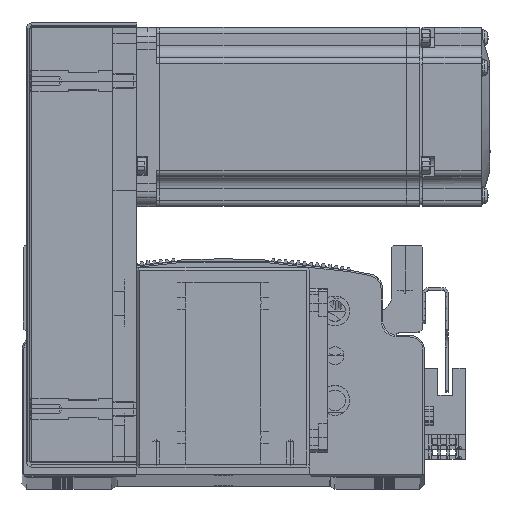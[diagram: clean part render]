
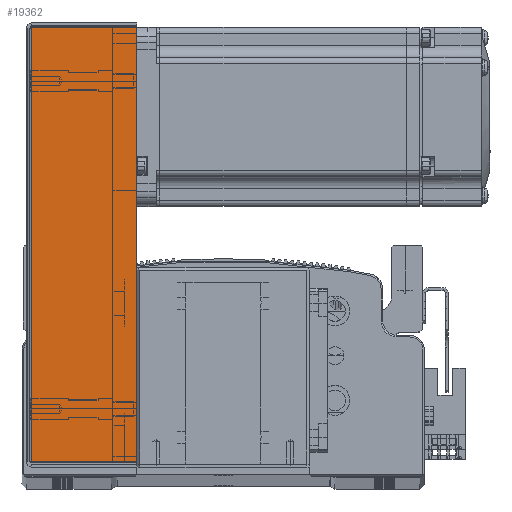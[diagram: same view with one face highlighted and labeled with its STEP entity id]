
A CAD part, top view. The second image highlights one B-rep face of the part: STEP entity #19362.
In plain terms, the highlighted planar face has unit normal (0, 0, 1).
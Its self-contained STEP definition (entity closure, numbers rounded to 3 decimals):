
#215 = CARTESIAN_POINT ( 'NONE',  ( 72.793, 0., 34.5 ) ) ;
#263 = DIRECTION ( 'NONE',  ( 0., 1., 0. ) ) ;
#282 = CARTESIAN_POINT ( 'NONE',  ( -74.5, 0.737, 34.5 ) ) ;
#322 = DIRECTION ( 'NONE',  ( -1., 0., 0. ) ) ;
#332 = DIRECTION ( 'NONE',  ( 0., 1., 0. ) ) ;
#344 = CARTESIAN_POINT ( 'NONE',  ( 0., 36., 34.5 ) ) ;
#358 = CARTESIAN_POINT ( 'NONE',  ( -72.793, 0., 34.5 ) ) ;
#363 = DIRECTION ( 'NONE',  ( -1., 0., 0. ) ) ;
#10433 = EDGE_CURVE ( 'NONE', #68327, #68380, #47089, .T. ) ;
#10454 = EDGE_CURVE ( 'NONE', #68327, #68394, #47102, .T. ) ;
#10462 = EDGE_CURVE ( 'NONE', #68394, #68308, #47100, .T. ) ;
#10463 = EDGE_CURVE ( 'NONE', #68380, #68308, #47219, .T. ) ;
#15903 = PLANE ( 'NONE',  #22095 ) ;
#15926 = DIRECTION ( 'NONE',  ( -1., 0., 0. ) ) ;
#15938 = CARTESIAN_POINT ( 'NONE',  ( 0., 0., 34.5 ) ) ;
#15940 = DIRECTION ( 'NONE',  ( 0., 0., -1. ) ) ;
#17198 = EDGE_LOOP ( 'NONE', ( #54768, #54787, #54811, #54775 ) ) ;
#19362 = ADVANCED_FACE ( 'NONE', ( #25827 ), #15903, .F. ) ;
#22095 = AXIS2_PLACEMENT_3D ( 'NONE', #15938, #15940, #15926 ) ;
#25827 = FACE_OUTER_BOUND ( 'NONE', #17198, .T. ) ;
#47012 = VECTOR ( 'NONE', #322, 1000. ) ;
#47016 = VECTOR ( 'NONE', #263, 1000. ) ;
#47089 = LINE ( 'NONE', #215, #47016 ) ;
#47100 = LINE ( 'NONE', #358, #47127 ) ;
#47102 = LINE ( 'NONE', #282, #47012 ) ;
#47121 = VECTOR ( 'NONE', #363, 1000. ) ;
#47127 = VECTOR ( 'NONE', #332, 1000. ) ;
#47219 = LINE ( 'NONE', #344, #47121 ) ;
#54768 = ORIENTED_EDGE ( 'NONE', *, *, #10454, .F. ) ;
#54775 = ORIENTED_EDGE ( 'NONE', *, *, #10462, .F. ) ;
#54787 = ORIENTED_EDGE ( 'NONE', *, *, #10433, .T. ) ;
#54811 = ORIENTED_EDGE ( 'NONE', *, *, #10463, .T. ) ;
#68308 = VERTEX_POINT ( 'NONE', #79353 ) ;
#68327 = VERTEX_POINT ( 'NONE', #78233 ) ;
#68380 = VERTEX_POINT ( 'NONE', #78293 ) ;
#68394 = VERTEX_POINT ( 'NONE', #78289 ) ;
#78233 = CARTESIAN_POINT ( 'NONE',  ( 72.793, 0.737, 34.5 ) ) ;
#78289 = CARTESIAN_POINT ( 'NONE',  ( -72.793, 0.737, 34.5 ) ) ;
#78293 = CARTESIAN_POINT ( 'NONE',  ( 72.793, 36., 34.5 ) ) ;
#79353 = CARTESIAN_POINT ( 'NONE',  ( -72.793, 36., 34.5 ) ) ;
